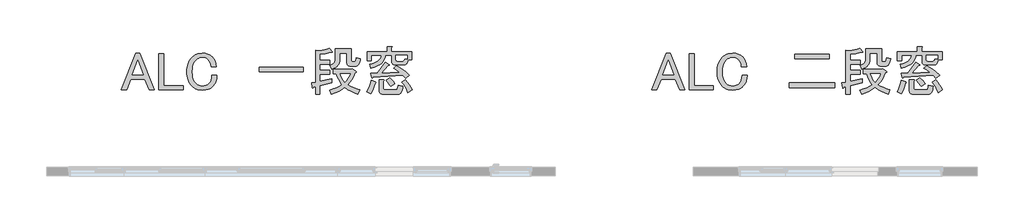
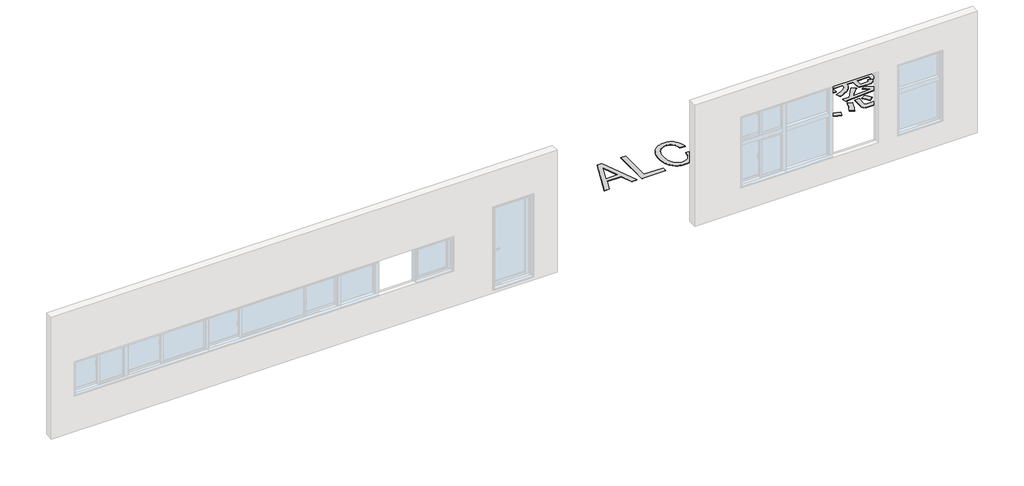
# One storey, part 3 of 9: 2 proxies.
"""IFC4 building model written with IfcOpenShell, lengths in millimetres."""

from ifc_helpers import new_model, si_unit, origin, origin_with_axes, place, context, project, spatial, polyline, outline, extrude, element, save

model = new_model("IFC4")

# Units and contexts
model_context = context("Model", 3, world=origin())
ifc_project = project(units=[si_unit("LENGTHUNIT", "METRE", prefix="MILLI")], contexts=[model_context])

# Site, building, storey
site = spatial("IfcSite", under=ifc_project)
building = spatial("IfcBuilding", under=site)
storey = spatial("IfcBuildingStorey", under=building, Name="レベル 1", Elevation=0.0)

# Proxies
placement = place(None, origin())
element("IfcBuildingElementProxy", 1, Name="600mm Arial", ObjectType="600mm Arial", at=placement, inside=storey, context=model_context, shape_type="SweptSolid", body=[
    extrude(outline(polyline([(39648.2462763, -5796.3801084), (39980.0238122, -4952.2990244), (40077.6054404, -4952.2990244), (40409.3829763, -5796.3801084), (40292.2850225, -5796.3801084), (40189.8243129, -5549.6937523), (39867.8049397, -5549.6937523), (39765.3442301, -5796.3801084), (39648.2462763, -5796.3801084)]), holes=[polyline([(40028.8146263, -5113.3087109), (39901.9585096, -5449.9653283), (40155.670743, -5449.9653283), (40028.8146263, -5113.3087109)])]), origin_with_axes(), (0.0, 0.0, 1.0), 10.0),
    extrude(outline(polyline([(40518.0889102, -4962.0571872), (40630.3077826, -4962.0571872), (40630.3077826, -5703.6775616), (41079.1832724, -5703.6775616), (41079.1832724, -5803.4059857), (40518.0889102, -5803.4059857), (40518.0889102, -4962.0571872)])), origin_with_axes(), (0.0, 0.0, 1.0), 10.0),
    extrude(outline(polyline([(41163.2986359, -5381.6581885), (41165.2045271, -5329.4367703), (41170.9222006, -5280.1123066), (41180.4516565, -5233.6847976), (41193.7928947, -5190.1542431), (41210.9459153, -5149.5206433), (41231.9107183, -5111.783998), (41256.6873036, -5076.9443073), (41285.2756712, -5045.0015712), (41309.2899, -5023.2744118), (41334.9813131, -5004.4442069), (41362.3499104, -4988.5109567), (41391.3956919, -4975.4746611), (41422.1186576, -4965.33532), (41454.5188076, -4958.0929335), (41524.3506603, -4952.2990244), (41593.5726278, -4957.4830484), (41654.8660881, -4973.0351204), (41682.5396279, -4984.6991744), (41708.231041, -4998.9552404), (41731.9403272, -5015.8033183), (41753.6674866, -5035.2434083), (41792.3951953, -5082.2045669), (41820.754856, -5135.2645773), (41838.7464687, -5194.4234394), (41846.3700334, -5259.6811532), (41729.2720796, -5259.6811532), (41721.6485149, -5211.5002243), (41708.5359836, -5169.4181471), (41689.9344857, -5133.4349217), (41665.8440212, -5103.5505481), (41635.0448198, -5077.9353707), (41601.1961925, -5059.6388154), (41564.2981394, -5048.6608822), (41524.3506603, -5045.0015712), (41481.658698, -5049.2707674), (41441.4062763, -5062.0783561), (41403.5933954, -5083.4243373), (41368.2200552, -5113.3087109), (41347.6364305, -5136.7130546), (41329.7972891, -5163.0143528), (41314.702631, -5192.2126056), (41302.3524561, -5224.307813), (41292.7467646, -5259.299975), (41285.8855564, -5297.1890916), (41280.3965898, -5381.6581885), (41285.8855564, -5466.1272854), (41292.7467646, -5504.016402), (41302.3524561, -5539.008564), (41314.702631, -5571.1037714), (41329.7972891, -5600.3020242), (41347.6364305, -5626.6033225), (41368.2200552, -5650.0076661), (41401.7637399, -5677.7574416), (41438.9667356, -5697.5787099), (41479.8290425, -5709.4714708), (41524.3506603, -5713.4357244), (41570.3969911, -5710.081356), (41610.9543554, -5700.0182506), (41646.022753, -5683.2464082), (41675.6021841, -5659.7658289), (41705.4865577, -5621.952948), (41726.8325389, -5576.8214449), (41739.6401276, -5524.3713198), (41743.9093238, -5464.6025725), (41861.0072777, -5464.6025725), (41853.0787704, -5542.9728177), (41844.9977918, -5578.7273361), (41834.1723299, -5612.1947852), (41820.6023847, -5643.3751648), (41804.2879563, -5672.268475), (41785.2290445, -5698.8747159), (41763.4256495, -5723.1938873), (41741.5460188, -5742.6339773), (41717.3793186, -5759.4820553), (41690.9255491, -5773.7381213), (41662.1847102, -5785.4021753), (41597.8418241, -5800.9542472), (41524.3506603, -5806.1382712), (41454.5188076, -5800.3443621), (41422.1186576, -5793.1019756), (41391.3956919, -5782.9626345), (41362.3499104, -5769.9263389), (41334.9813131, -5753.9930887), (41309.2899, -5735.1628839), (41285.2756712, -5713.4357244), (41256.6873036, -5681.569224), (41231.9107183, -5646.9582402), (41210.9459153, -5609.6027732), (41193.7928947, -5569.5028228), (41180.4516565, -5526.6583892), (41170.9222006, -5481.0694723), (41165.2045271, -5432.736072), (41163.2986359, -5381.6581885)])), origin_with_axes(), (0.0, 0.0, 1.0), 10.0),
    extrude(outline(polyline([(43870.7984924, -5274.3183975), (43870.7984924, -5386.5372699), (42841.3123147, -5386.5372699), (42841.3123147, -5274.3183975), (43870.7984924, -5274.3183975)])), origin_with_axes(), (0.0, 0.0, 1.0), 10.0),
    extrude(outline(polyline([(45134.4805778, -5903.7198995), (45053.3658493, -5873.5305832), (44975.9104319, -5836.6325301), (44902.1143256, -5793.02574), (44831.9775303, -5742.7102129), (44768.549472, -5789.6713715), (44695.3632508, -5832.973219), (44612.4188668, -5872.6157555), (44519.71632, -5908.5989809), (44475.8045873, -5806.1382712), (44565.1527657, -5778.0835531), (44642.9131257, -5747.5892943), (44709.0856673, -5714.6554948), (44763.6703906, -5679.2821546), (44720.6734856, -5620.8185616), (44684.3853176, -5559.4031243), (44654.8058866, -5495.0358428), (44631.9351925, -5427.716717), (44558.7489713, -5427.716717), (44558.7489713, -5327.988293), (44988.1081355, -5327.988293), (45007.6244611, -5308.4719673), (45085.6897637, -5371.9000257), (45095.7528691, -5380.7433607), (45096.6676969, -5387.7570403), (45088.434247, -5392.9410643), (45071.0525195, -5396.2954327), (45032.6297533, -5483.8139555), (44990.5476762, -5560.9644304), (44944.8062879, -5627.7468572), (44895.4055887, -5684.161236), (44953.0397378, -5714.9604374), (45018.6023943, -5743.9299833), (45092.093558, -5771.0698736), (45173.5132291, -5796.3801084), (45134.4805778, -5903.7198995)]), holes=[polyline([(44719.7586579, -5427.716717), (44735.920615, -5475.4341332), (44760.0110795, -5524.322529), (44792.0300513, -5574.3819042), (44831.9775303, -5625.612259), (44870.705239, -5581.4077815), (44903.9439811, -5533.6903653), (44931.6937567, -5482.4600105), (44953.9545656, -5427.716717), (44719.7586579, -5427.716717)])]), origin_with_axes(), (0.0, 0.0, 1.0), 10.0),
    extrude(outline(polyline([(44241.6086796, -4898.6291288), (44301.6823695, -4887.3462531), (44359.9264038, -4873.0139514), (44416.3407826, -4855.6322239), (44470.9255059, -4835.2010705), (44539.2326457, -4913.2663731), (44544.1117271, -4923.6344211), (44539.2326457, -4930.343158), (44524.5954014, -4933.3925839), (44500.1999944, -4932.7826987), (44379.4427295, -4958.3978761), (44251.3668424, -4976.6944314), (44251.3668424, -5108.4296295), (44480.6836687, -5108.4296295), (44480.6836687, -5208.1580535), (44251.3668424, -5208.1580535), (44251.3668424, -5342.6255372), (44485.5627502, -5342.6255372), (44485.5627502, -5442.3539613), (44251.3668424, -5442.3539613), (44251.3668424, -5606.0959334), (44529.4744829, -5547.5469565), (44529.4744829, -5635.3704219), (44251.3668424, -5708.556643), (44251.3668424, -5903.7198995), (44151.6384184, -5903.7198995), (44151.6384184, -5728.0729687), (44100.1153187, -5742.7102129), (44096.7609502, -5756.4326294), (44091.5769262, -5763.4463089), (44084.5632467, -5763.7512515), (44075.7199117, -5757.3474571), (44061.0826674, -5635.3704219), (44151.6384184, -5620.7331776), (44151.6384184, -4879.1128032), (44241.6086796, -4898.6291288)])), origin_with_axes(), (0.0, 0.0, 1.0), 10.0),
    extrude(outline(polyline([(45046.6571124, -5152.3413622), (45069.8327491, -5147.4622808), (45076.8464286, -5141.363429), (45080.8106823, -5132.8250366), (45100.3270079, -5054.759734), (45193.0295547, -5079.155141), (45184.7198692, -5119.682011), (45174.4280568, -5154.8052983), (45162.1541177, -5184.525003), (45147.8980517, -5208.8411249), (45131.6598589, -5227.7536643), (45113.4395392, -5241.2626209), (45093.2370927, -5249.3679949), (45071.0525195, -5252.0697862), (44968.5918098, -5252.0697862), (44947.5050299, -5250.6640009), (44929.2298205, -5246.4466449), (44913.7661819, -5239.4177183), (44901.1141139, -5229.5772209), (44891.2736166, -5216.925153), (44884.2446899, -5201.4615143), (44880.0273339, -5183.186305), (44878.6215486, -5162.099525), (44878.6215486, -4949.5667388), (44710.0004951, -4949.5667388), (44710.0004951, -5093.7923853), (44707.1035405, -5134.6546921), (44698.4126767, -5171.8576878), (44683.9279038, -5205.4013725), (44663.6492217, -5235.2857462), (44637.5766304, -5261.5108088), (44605.7101299, -5284.0765603), (44568.0497203, -5302.9830008), (44524.5954014, -5318.2301302), (44485.5627502, -5230.4066648), (44514.7914972, -5221.7920367), (44540.123078, -5210.5853965), (44561.5574926, -5196.7867444), (44579.0947408, -5180.3960803), (44592.7348228, -5161.4134042), (44602.4777385, -5139.8387161), (44608.3234879, -5115.672016), (44610.272071, -5088.9133039), (44610.272071, -4849.8383147), (44978.3499726, -4849.8383147), (44978.3499726, -5113.3087109), (44980.4845708, -5130.3854959), (44986.8883651, -5142.5831994), (44997.5613557, -5149.9018215), (45012.5035425, -5152.3413622), (45046.6571124, -5152.3413622)])), origin_with_axes(), (0.0, 0.0, 1.0), 10.0),
    extrude(outline(polyline([(46383.525419, -4913.2663731), (46383.525419, -5103.5505481), (46300.581035, -5103.5505481), (46285.028963, -5154.5247511), (46274.7371506, -5174.5503309), (46262.768154, -5190.9348962), (46249.1219732, -5203.6784469), (46233.7986082, -5212.7809832), (46216.7980589, -5218.2425049), (46198.1203253, -5220.0630122), (45993.1989061, -5220.0630122), (45960.2407112, -5214.6106387), (45947.2928489, -5207.7951719), (45936.6991434, -5198.2535183), (45928.4595946, -5185.985678), (45922.5742027, -5170.9916509), (45917.8658891, -5132.8250366), (45917.8658891, -5000.5043487), (45773.6402426, -5000.5043487), (45767.3126839, -5049.7678238), (45750.7695485, -5095.7806109), (45724.0108364, -5138.5427101), (45687.0365476, -5178.0541212), (45639.846682, -5214.3148444), (45582.4412398, -5247.3248796), (45514.8202209, -5277.0842267), (45436.9836253, -5303.5928859), (45407.7091368, -5210.8903391), (45470.6035456, -5192.2766436), (45525.1120332, -5171.4673613), (45571.2345997, -5148.4624925), (45608.971245, -5123.262037), (45638.3219691, -5095.8659949), (45659.286772, -5066.2743661), (45671.8656538, -5034.4871507), (45676.0586144, -5000.5043487), (45446.7417881, -5000.5043487), (45446.7417881, -5127.9459551), (45347.013364, -5127.9459551), (45347.013364, -4913.2663731), (45810.5260981, -4913.2663731), (45810.5260981, -4796.1684192), (45905.3754407, -4796.1684192), (45920.3176275, -4799.8277303), (45926.1115367, -4805.926582), (45922.7571682, -4814.4649745), (45910.2545221, -4825.4429077), (45910.2545221, -4913.2663731), (46383.525419, -4913.2663731)]), holes=[polyline([(46168.8458369, -5132.8250366), (46184.3979089, -5129.1657255), (46196.900555, -5118.1877923), (46206.3537752, -5099.891237), (46212.7575696, -5074.2760596), (46283.7969949, -5093.7923853), (46283.7969949, -5000.5043487), (46017.5943131, -5000.5043487), (46017.5943131, -5103.5505481), (46019.4239687, -5116.3581368), (46024.9129353, -5125.5064144), (46034.0612129, -5130.995381), (46046.8688016, -5132.8250366), (46168.8458369, -5132.8250366)])]), origin_with_axes(), (0.0, 0.0, 1.0), 10.0),
    extrude(outline(polyline([(45715.0912657, -5900.9876139), (45694.0044857, -5899.5818285), (45675.7292764, -5895.3644725), (45660.2656377, -5888.3355459), (45647.6135698, -5878.4950486), (45637.7730724, -5865.8429806), (45630.7441458, -5850.3793419), (45626.5267898, -5832.1041326), (45625.1210045, -5811.0173527), (45625.1210045, -5567.0632821), (45719.9703471, -5567.0632821), (45734.9125339, -5570.7225932), (45740.7064431, -5576.8214449), (45737.3520746, -5585.3598374), (45724.8494285, -5596.3377706), (45724.8494285, -5767.10562), (45726.679084, -5782.0478068), (45732.1680506, -5792.7207974), (45741.3163283, -5799.1245917), (45754.123917, -5801.2591898), (46012.7152317, -5801.2591898), (46024.2268144, -5799.5820056), (46034.3661555, -5794.5504529), (46050.5281127, -5774.4242421), (46061.2011033, -5740.8805574), (46066.3851273, -5693.9193988), (46173.7249183, -5718.3148059), (46168.8458369, -5761.1287452), (46161.5272148, -5798.2341594), (46151.7690519, -5829.6310482), (46139.5713484, -5855.3194119), (46124.9341042, -5875.2992502), (46107.8573192, -5889.5705634), (46088.3409936, -5898.1333512), (46066.3851273, -5900.9876139), (45715.0912657, -5900.9876139)])), origin_with_axes(), (0.0, 0.0, 1.0), 10.0),
    extrude(outline(polyline([(45480.895358, -5508.5143052), (45477.5409895, -5522.2367217), (45472.3569655, -5529.2504012), (45465.343286, -5529.5553438), (45456.4999509, -5523.1515494), (45432.1045438, -5415.8117584), (45583.3560676, -5415.8117584), (45768.7611612, -5157.2204436), (45866.3427894, -5215.7694205), (45866.647732, -5225.832526), (45862.6834784, -5231.6264351), (45854.4500285, -5233.1511481), (45841.9473824, -5230.4066648), (45676.0586144, -5415.8117584), (46095.6596157, -5391.4163513), (46028.5722463, -5338.9662262), (45963.9244176, -5298.7138045), (46027.352476, -5245.043909), (46090.1706491, -5274.9282826), (46161.5272148, -5320.6696709), (46241.4221729, -5382.2680737), (46329.8555234, -5459.7234911), (46242.032058, -5528.0306308), (46173.7249183, -5459.7234911), (45480.895358, -5508.5143052)])), origin_with_axes(), (0.0, 0.0, 1.0), 10.0),
    extrude(outline(polyline([(46232.2738952, -5567.0632821), (46280.7597667, -5621.952948), (46323.7566717, -5679.2821546), (46361.26461, -5739.0509018), (46393.2835818, -5801.2591898), (46295.7019536, -5864.6872482), (46264.9027522, -5796.3801084), (46231.0541249, -5732.9520501), (46194.1560717, -5674.4030732), (46154.2085926, -5620.7331776), (46232.2738952, -5567.0632821)])), origin_with_axes(), (0.0, 0.0, 1.0), 10.0),
    extrude(outline(polyline([(45895.6172779, -5723.1938873), (45877.9306078, -5690.2600877), (45854.1450859, -5654.8867475), (45788.2774868, -5576.8214449), (45871.2218708, -5523.1515494), (45902.3260148, -5549.9864972), (45932.2103885, -5581.7005264), (45960.8749917, -5618.2936369), (45988.3198247, -5659.7658289), (45895.6172779, -5723.1938873)])), origin_with_axes(), (0.0, 0.0, 1.0), 10.0),
    extrude(outline(polyline([(45339.401997, -5840.2918411), (45375.0802799, -5771.0698736), (45404.0498257, -5704.897332), (45426.3106347, -5641.7742162), (45441.8627067, -5581.7005264), (45539.4443349, -5615.8540962), (45546.4580144, -5623.1727183), (45547.9827274, -5630.4913405), (45544.0184737, -5637.8099626), (45534.5652535, -5645.1285847), (45515.658813, -5711.6060689), (45493.0930615, -5774.4242421), (45466.8679989, -5833.5831042), (45436.9836253, -5889.0826552), (45339.401997, -5840.2918411)])), origin_with_axes(), (0.0, 0.0, 1.0), 10.0),
])
element("IfcBuildingElementProxy", 2, Name="600mm Arial", ObjectType="600mm Arial", at=placement, inside=storey, context=model_context, shape_type="SweptSolid", body=[
    extrude(outline(polyline([(51953.1892913, -5796.3801084), (52284.9668273, -4952.2990244), (52382.5484555, -4952.2990244), (52714.3259914, -5796.3801084), (52597.2280376, -5796.3801084), (52494.7673279, -5549.6937523), (52172.7479548, -5549.6937523), (52070.2872452, -5796.3801084), (51953.1892913, -5796.3801084)]), holes=[polyline([(52333.7576414, -5113.3087109), (52206.9015247, -5449.9653283), (52460.6137581, -5449.9653283), (52333.7576414, -5113.3087109)])]), origin_with_axes(), (0.0, 0.0, 1.0), 10.0),
    extrude(outline(polyline([(52823.0319253, -4962.0571872), (52935.2507977, -4962.0571872), (52935.2507977, -5703.6775616), (53384.1262875, -5703.6775616), (53384.1262875, -5803.4059857), (52823.0319253, -5803.4059857), (52823.0319253, -4962.0571872)])), origin_with_axes(), (0.0, 0.0, 1.0), 10.0),
    extrude(outline(polyline([(53468.241651, -5381.6581885), (53470.1475422, -5329.4367703), (53475.8652157, -5280.1123066), (53485.3946716, -5233.6847976), (53498.7359098, -5190.1542431), (53515.8889304, -5149.5206433), (53536.8537334, -5111.783998), (53561.6303186, -5076.9443073), (53590.2186863, -5045.0015712), (53614.2329151, -5023.2744118), (53639.9243282, -5004.4442069), (53667.2929254, -4988.5109567), (53696.338707, -4975.4746611), (53727.0616727, -4965.33532), (53759.4618227, -4958.0929335), (53829.2936754, -4952.2990244), (53898.5156429, -4957.4830484), (53959.8091032, -4973.0351204), (53987.482643, -4984.6991744), (54013.1740561, -4998.9552404), (54036.8833423, -5015.8033183), (54058.6105017, -5035.2434083), (54097.3382104, -5082.2045669), (54125.6978711, -5135.2645773), (54143.6894838, -5194.4234394), (54151.3130485, -5259.6811532), (54034.2150947, -5259.6811532), (54026.59153, -5211.5002243), (54013.4789987, -5169.4181471), (53994.8775008, -5133.4349217), (53970.7870363, -5103.5505481), (53939.9878349, -5077.9353707), (53906.1392076, -5059.6388154), (53869.2411545, -5048.6608822), (53829.2936754, -5045.0015712), (53786.6017131, -5049.2707674), (53746.3492914, -5062.0783561), (53708.5364105, -5083.4243373), (53673.1630703, -5113.3087109), (53652.5794456, -5136.7130546), (53634.7403042, -5163.0143528), (53619.645646, -5192.2126056), (53607.2954712, -5224.307813), (53597.6897797, -5259.299975), (53590.8285715, -5297.1890916), (53585.3396049, -5381.6581885), (53590.8285715, -5466.1272854), (53597.6897797, -5504.016402), (53607.2954712, -5539.008564), (53619.645646, -5571.1037714), (53634.7403042, -5600.3020242), (53652.5794456, -5626.6033225), (53673.1630703, -5650.0076661), (53706.706755, -5677.7574416), (53743.9097507, -5697.5787099), (53784.7720575, -5709.4714708), (53829.2936754, -5713.4357244), (53875.3400062, -5710.081356), (53915.8973705, -5700.0182506), (53950.9657681, -5683.2464082), (53980.5451991, -5659.7658289), (54010.4295728, -5621.952948), (54031.775554, -5576.8214449), (54044.5831427, -5524.3713198), (54048.8523389, -5464.6025725), (54165.9502928, -5464.6025725), (54158.0217855, -5542.9728177), (54149.9408069, -5578.7273361), (54139.115345, -5612.1947852), (54125.5453998, -5643.3751648), (54109.2309714, -5672.268475), (54090.1720596, -5698.8747159), (54068.3686645, -5723.1938873), (54046.4890338, -5742.6339773), (54022.3223337, -5759.4820553), (53995.8685642, -5773.7381213), (53967.1277253, -5785.4021753), (53902.7848392, -5800.9542472), (53829.2936754, -5806.1382712), (53759.4618227, -5800.3443621), (53727.0616727, -5793.1019756), (53696.338707, -5782.9626345), (53667.2929254, -5769.9263389), (53639.9243282, -5753.9930887), (53614.2329151, -5735.1628839), (53590.2186863, -5713.4357244), (53561.6303186, -5681.569224), (53536.8537334, -5646.9582402), (53515.8889304, -5609.6027732), (53498.7359098, -5569.5028228), (53485.3946716, -5526.6583892), (53475.8652157, -5481.0694723), (53470.1475422, -5432.736072), (53468.241651, -5381.6581885)])), origin_with_axes(), (0.0, 0.0, 1.0), 10.0),
    extrude(outline(polyline([(56073.2807979, -4971.81535), (56073.2807979, -5084.0342225), (55273.1114465, -5084.0342225), (55273.1114465, -4971.81535), (56073.2807979, -4971.81535)])), origin_with_axes(), (0.0, 0.0, 1.0), 10.0),
    extrude(outline(polyline([(56195.2578331, -5635.3704219), (56195.2578331, -5747.5892943), (55141.3762484, -5747.5892943), (55141.3762484, -5635.3704219), (56195.2578331, -5635.3704219)])), origin_with_axes(), (0.0, 0.0, 1.0), 10.0),
    extrude(outline(polyline([(57439.4235929, -5903.7198995), (57358.3088644, -5873.5305832), (57280.853447, -5836.6325301), (57207.0573407, -5793.02574), (57136.9205454, -5742.7102129), (57073.4924871, -5789.6713715), (57000.3062659, -5832.973219), (56917.3618819, -5872.6157555), (56824.6593351, -5908.5989809), (56780.7476024, -5806.1382712), (56870.0957808, -5778.0835531), (56947.8561407, -5747.5892943), (57014.0286824, -5714.6554948), (57068.6134057, -5679.2821546), (57025.6165007, -5620.8185616), (56989.3283327, -5559.4031243), (56959.7489017, -5495.0358428), (56936.8782076, -5427.716717), (56863.6919864, -5427.716717), (56863.6919864, -5327.988293), (57293.0511506, -5327.988293), (57312.5674762, -5308.4719673), (57390.6327788, -5371.9000257), (57400.6958842, -5380.7433607), (57401.6107119, -5387.7570403), (57393.3772621, -5392.9410643), (57375.9955345, -5396.2954327), (57337.5727684, -5483.8139555), (57295.4906913, -5560.9644304), (57249.749303, -5627.7468572), (57200.3486038, -5684.161236), (57257.9827529, -5714.9604374), (57323.5454094, -5743.9299833), (57397.0365731, -5771.0698736), (57478.4562442, -5796.3801084), (57439.4235929, -5903.7198995)]), holes=[polyline([(57024.701673, -5427.716717), (57040.8636301, -5475.4341332), (57064.9540946, -5524.322529), (57096.9730664, -5574.3819042), (57136.9205454, -5625.612259), (57175.6482541, -5581.4077815), (57208.8869962, -5533.6903653), (57236.6367717, -5482.4600105), (57258.8975807, -5427.716717), (57024.701673, -5427.716717)])]), origin_with_axes(), (0.0, 0.0, 1.0), 10.0),
    extrude(outline(polyline([(56546.5516947, -4898.6291288), (56606.6253846, -4887.3462531), (56664.8694189, -4873.0139514), (56721.2837977, -4855.6322239), (56775.868521, -4835.2010705), (56844.1756608, -4913.2663731), (56849.0547422, -4923.6344211), (56844.1756608, -4930.343158), (56829.5384165, -4933.3925839), (56805.1430095, -4932.7826987), (56684.3857446, -4958.3978761), (56556.3098575, -4976.6944314), (56556.3098575, -5108.4296295), (56785.6266838, -5108.4296295), (56785.6266838, -5208.1580535), (56556.3098575, -5208.1580535), (56556.3098575, -5342.6255372), (56790.5057652, -5342.6255372), (56790.5057652, -5442.3539613), (56556.3098575, -5442.3539613), (56556.3098575, -5606.0959334), (56834.4174979, -5547.5469565), (56834.4174979, -5635.3704219), (56556.3098575, -5708.556643), (56556.3098575, -5903.7198995), (56456.5814335, -5903.7198995), (56456.5814335, -5728.0729687), (56405.0583338, -5742.7102129), (56401.7039653, -5756.4326294), (56396.5199413, -5763.4463089), (56389.5062618, -5763.7512515), (56380.6629267, -5757.3474571), (56366.0256825, -5635.3704219), (56456.5814335, -5620.7331776), (56456.5814335, -4879.1128032), (56546.5516947, -4898.6291288)])), origin_with_axes(), (0.0, 0.0, 1.0), 10.0),
    extrude(outline(polyline([(57351.6001275, -5152.3413622), (57374.7757642, -5147.4622808), (57381.7894437, -5141.363429), (57385.7536974, -5132.8250366), (57405.270023, -5054.759734), (57497.9725698, -5079.155141), (57489.6628843, -5119.682011), (57479.3710719, -5154.8052983), (57467.0971328, -5184.525003), (57452.8410668, -5208.8411249), (57436.6028739, -5227.7536643), (57418.3825543, -5241.2626209), (57398.1801078, -5249.3679949), (57375.9955345, -5252.0697862), (57273.5348249, -5252.0697862), (57252.4480449, -5250.6640009), (57234.1728356, -5246.4466449), (57218.709197, -5239.4177183), (57206.057129, -5229.5772209), (57196.2166317, -5216.925153), (57189.187705, -5201.4615143), (57184.970349, -5183.186305), (57183.5645637, -5162.099525), (57183.5645637, -4949.5667388), (57014.9435101, -4949.5667388), (57014.9435101, -5093.7923853), (57012.0465556, -5134.6546921), (57003.3556918, -5171.8576878), (56988.8709189, -5205.4013725), (56968.5922367, -5235.2857462), (56942.5196454, -5261.5108088), (56910.653145, -5284.0765603), (56872.9927353, -5302.9830008), (56829.5384165, -5318.2301302), (56790.5057652, -5230.4066648), (56819.7345123, -5221.7920367), (56845.0660931, -5210.5853965), (56866.5005076, -5196.7867444), (56884.0377559, -5180.3960803), (56897.6778379, -5161.4134042), (56907.4207536, -5139.8387161), (56913.266503, -5115.672016), (56915.2150861, -5088.9133039), (56915.2150861, -4849.8383147), (57283.2929877, -4849.8383147), (57283.2929877, -5113.3087109), (57285.4275859, -5130.3854959), (57291.8313802, -5142.5831994), (57302.5043708, -5149.9018215), (57317.4465576, -5152.3413622), (57351.6001275, -5152.3413622)])), origin_with_axes(), (0.0, 0.0, 1.0), 10.0),
    extrude(outline(polyline([(58688.468434, -4913.2663731), (58688.468434, -5103.5505481), (58605.5240501, -5103.5505481), (58589.9719781, -5154.5247511), (58579.6801657, -5174.5503309), (58567.7111691, -5190.9348962), (58554.0649883, -5203.6784469), (58538.7416232, -5212.7809832), (58521.741074, -5218.2425049), (58503.0633404, -5220.0630122), (58298.1419212, -5220.0630122), (58265.1837262, -5214.6106387), (58252.235864, -5207.7951719), (58241.6421584, -5198.2535183), (58233.4026097, -5185.985678), (58227.5172178, -5170.9916509), (58222.8089042, -5132.8250366), (58222.8089042, -5000.5043487), (58078.5832577, -5000.5043487), (58072.255699, -5049.7678238), (58055.7125636, -5095.7806109), (58028.9538515, -5138.5427101), (57991.9795626, -5178.0541212), (57944.7896971, -5214.3148444), (57887.3842549, -5247.3248796), (57819.763236, -5277.0842267), (57741.9266403, -5303.5928859), (57712.6521519, -5210.8903391), (57775.5465607, -5192.2766436), (57830.0550483, -5171.4673613), (57876.1776148, -5148.4624925), (57913.9142601, -5123.262037), (57943.2649842, -5095.8659949), (57964.2297871, -5066.2743661), (57976.8086689, -5034.4871507), (57981.0016295, -5000.5043487), (57751.6848032, -5000.5043487), (57751.6848032, -5127.9459551), (57651.9563791, -5127.9459551), (57651.9563791, -4913.2663731), (58115.4691132, -4913.2663731), (58115.4691132, -4796.1684192), (58210.3184558, -4796.1684192), (58225.2606426, -4799.8277303), (58231.0545518, -4805.926582), (58227.7001833, -4814.4649745), (58215.1975372, -4825.4429077), (58215.1975372, -4913.2663731), (58688.468434, -4913.2663731)]), holes=[polyline([(58473.788852, -5132.8250366), (58489.340924, -5129.1657255), (58501.8435701, -5118.1877923), (58511.2967903, -5099.891237), (58517.7005847, -5074.2760596), (58588.74001, -5093.7923853), (58588.74001, -5000.5043487), (58322.5373282, -5000.5043487), (58322.5373282, -5103.5505481), (58324.3669838, -5116.3581368), (58329.8559503, -5125.5064144), (58339.004228, -5130.995381), (58351.8118167, -5132.8250366), (58473.788852, -5132.8250366)])]), origin_with_axes(), (0.0, 0.0, 1.0), 10.0),
    extrude(outline(polyline([(58020.0342808, -5900.9876139), (57998.9475008, -5899.5818285), (57980.6722915, -5895.3644725), (57965.2086528, -5888.3355459), (57952.5565849, -5878.4950486), (57942.7160875, -5865.8429806), (57935.6871609, -5850.3793419), (57931.4698049, -5832.1041326), (57930.0640195, -5811.0173527), (57930.0640195, -5567.0632821), (58024.9133622, -5567.0632821), (58039.855549, -5570.7225932), (58045.6494582, -5576.8214449), (58042.2950897, -5585.3598374), (58029.7924436, -5596.3377706), (58029.7924436, -5767.10562), (58031.6220991, -5782.0478068), (58037.1110657, -5792.7207974), (58046.2593433, -5799.1245917), (58059.066932, -5801.2591898), (58317.6582468, -5801.2591898), (58329.1698295, -5799.5820056), (58339.3091706, -5794.5504529), (58355.4711278, -5774.4242421), (58366.1441183, -5740.8805574), (58371.3281423, -5693.9193988), (58478.6679334, -5718.3148059), (58473.788852, -5761.1287452), (58466.4702298, -5798.2341594), (58456.712067, -5829.6310482), (58444.5143635, -5855.3194119), (58429.8771193, -5875.2992502), (58412.8003343, -5889.5705634), (58393.2840087, -5898.1333512), (58371.3281423, -5900.9876139), (58020.0342808, -5900.9876139)])), origin_with_axes(), (0.0, 0.0, 1.0), 10.0),
    extrude(outline(polyline([(57785.838373, -5508.5143052), (57782.4840046, -5522.2367217), (57777.2999806, -5529.2504012), (57770.286301, -5529.5553438), (57761.442966, -5523.1515494), (57737.0475589, -5415.8117584), (57888.2990827, -5415.8117584), (58073.7041763, -5157.2204436), (58171.2858045, -5215.7694205), (58171.5907471, -5225.832526), (58167.6264934, -5231.6264351), (58159.3930436, -5233.1511481), (58146.8903974, -5230.4066648), (57981.0016295, -5415.8117584), (58400.6026308, -5391.4163513), (58333.5152614, -5338.9662262), (58268.8674327, -5298.7138045), (58332.2954911, -5245.043909), (58395.1136642, -5274.9282826), (58466.4702298, -5320.6696709), (58546.3651879, -5382.2680737), (58634.7985385, -5459.7234911), (58546.9750731, -5528.0306308), (58478.6679334, -5459.7234911), (57785.838373, -5508.5143052)])), origin_with_axes(), (0.0, 0.0, 1.0), 10.0),
    extrude(outline(polyline([(58537.2169103, -5567.0632821), (58585.7027818, -5621.952948), (58628.6996868, -5679.2821546), (58666.2076251, -5739.0509018), (58698.2265969, -5801.2591898), (58600.6449686, -5864.6872482), (58569.8457672, -5796.3801084), (58535.99714, -5732.9520501), (58499.0990868, -5674.4030732), (58459.1516077, -5620.7331776), (58537.2169103, -5567.0632821)])), origin_with_axes(), (0.0, 0.0, 1.0), 10.0),
    extrude(outline(polyline([(58200.560293, -5723.1938873), (58182.8736228, -5690.2600877), (58159.088101, -5654.8867475), (58093.2205019, -5576.8214449), (58176.1648859, -5523.1515494), (58207.2690299, -5549.9864972), (58237.1534035, -5581.7005264), (58265.8180068, -5618.2936369), (58293.2628398, -5659.7658289), (58200.560293, -5723.1938873)])), origin_with_axes(), (0.0, 0.0, 1.0), 10.0),
    extrude(outline(polyline([(57644.3450121, -5840.2918411), (57680.0232949, -5771.0698736), (57708.9928408, -5704.897332), (57731.2536498, -5641.7742162), (57746.8057218, -5581.7005264), (57844.38735, -5615.8540962), (57851.4010295, -5623.1727183), (57852.9257424, -5630.4913405), (57848.9614888, -5637.8099626), (57839.5082686, -5645.1285847), (57820.6018281, -5711.6060689), (57798.0360766, -5774.4242421), (57771.811014, -5833.5831042), (57741.9266403, -5889.0826552), (57644.3450121, -5840.2918411)])), origin_with_axes(), (0.0, 0.0, 1.0), 10.0),
])

save(model, "model.ifc")
